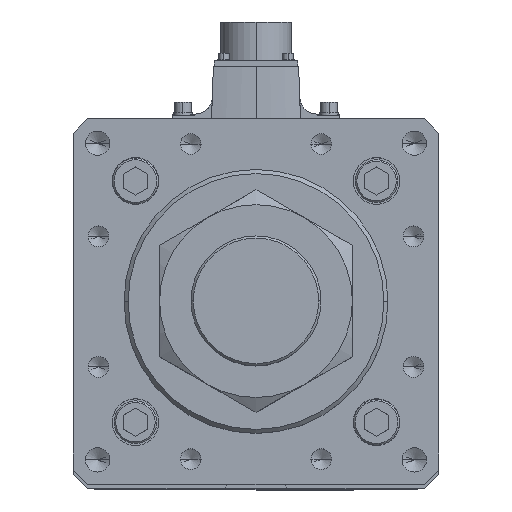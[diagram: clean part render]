
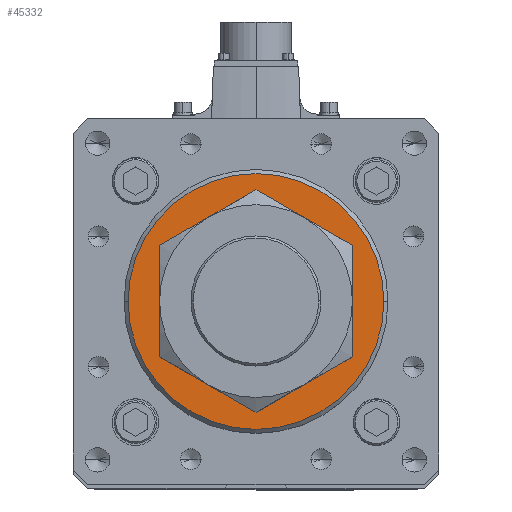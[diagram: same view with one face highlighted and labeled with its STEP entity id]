
A CAD part, top view. The second image highlights one B-rep face of the part: STEP entity #45332.
In plain terms, the highlighted planar face has unit normal (0, 0, 1).
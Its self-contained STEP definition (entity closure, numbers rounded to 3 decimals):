
#569 = VERTEX_POINT ( 'NONE', #50246 ) ;
#1912 = EDGE_CURVE ( 'NONE', #38451, #19888, #24933, .T. ) ;
#2568 = FACE_BOUND ( 'NONE', #54026, .T. ) ;
#5163 = CARTESIAN_POINT ( 'NONE',  ( 63., 0., 1212. ) ) ;
#7040 = CIRCLE ( 'NONE', #30004, 40.5 ) ;
#10317 = EDGE_CURVE ( 'NONE', #569, #42854, #51401, .T. ) ;
#11149 = CARTESIAN_POINT ( 'NONE',  ( 0., 0., 1212. ) ) ;
#15411 = DIRECTION ( 'NONE',  ( 0., 0., 1. ) ) ;
#19888 = VERTEX_POINT ( 'NONE', #40395 ) ;
#22938 = ORIENTED_EDGE ( 'NONE', *, *, #31263, .T. ) ;
#23268 = DIRECTION ( 'NONE',  ( 1., 0., 0. ) ) ;
#23571 = DIRECTION ( 'NONE',  ( 0., 0., -1. ) ) ;
#24933 = CIRCLE ( 'NONE', #33577, 40.5 ) ;
#25492 = DIRECTION ( 'NONE',  ( 0., 0., -1. ) ) ;
#28030 = DIRECTION ( 'NONE',  ( 0., 0., 1. ) ) ;
#28052 = AXIS2_PLACEMENT_3D ( 'NONE', #40693, #28030, #32909 ) ;
#30004 = AXIS2_PLACEMENT_3D ( 'NONE', #49077, #23571, #35865 ) ;
#31263 = EDGE_CURVE ( 'NONE', #42854, #569, #36649, .T. ) ;
#32909 = DIRECTION ( 'NONE',  ( 1., 0., 0. ) ) ;
#33266 = AXIS2_PLACEMENT_3D ( 'NONE', #11149, #15411, #45217 ) ;
#33577 = AXIS2_PLACEMENT_3D ( 'NONE', #51392, #25492, #37967 ) ;
#35865 = DIRECTION ( 'NONE',  ( 1., 0., 0. ) ) ;
#36649 = CIRCLE ( 'NONE', #40212, 63. ) ;
#37967 = DIRECTION ( 'NONE',  ( 1., 0., 0. ) ) ;
#38451 = VERTEX_POINT ( 'NONE', #39966 ) ;
#39410 = ORIENTED_EDGE ( 'NONE', *, *, #10317, .T. ) ;
#39966 = CARTESIAN_POINT ( 'NONE',  ( 40.5, 0., 1212. ) ) ;
#40212 = AXIS2_PLACEMENT_3D ( 'NONE', #53632, #40727, #23268 ) ;
#40395 = CARTESIAN_POINT ( 'NONE',  ( -40.5, 0., 1212. ) ) ;
#40693 = CARTESIAN_POINT ( 'NONE',  ( 0., 0., 1212. ) ) ;
#40727 = DIRECTION ( 'NONE',  ( 0., 0., 1. ) ) ;
#42854 = VERTEX_POINT ( 'NONE', #5163 ) ;
#43528 = EDGE_CURVE ( 'NONE', #19888, #38451, #7040, .T. ) ;
#44444 = ORIENTED_EDGE ( 'NONE', *, *, #43528, .T. ) ;
#44568 = EDGE_LOOP ( 'NONE', ( #39410, #22938 ) ) ;
#45217 = DIRECTION ( 'NONE',  ( 1., 0., 0. ) ) ;
#45332 = ADVANCED_FACE ( 'NONE', ( #2568, #48628 ), #49348, .T. ) ;
#48628 = FACE_OUTER_BOUND ( 'NONE', #44568, .T. ) ;
#49077 = CARTESIAN_POINT ( 'NONE',  ( 0., 0., 1212. ) ) ;
#49348 = PLANE ( 'NONE',  #33266 ) ;
#50246 = CARTESIAN_POINT ( 'NONE',  ( -63., 0., 1212. ) ) ;
#51392 = CARTESIAN_POINT ( 'NONE',  ( 0., 0., 1212. ) ) ;
#51401 = CIRCLE ( 'NONE', #28052, 63. ) ;
#52900 = ORIENTED_EDGE ( 'NONE', *, *, #1912, .T. ) ;
#53632 = CARTESIAN_POINT ( 'NONE',  ( 0., 0., 1212. ) ) ;
#54026 = EDGE_LOOP ( 'NONE', ( #52900, #44444 ) ) ;
